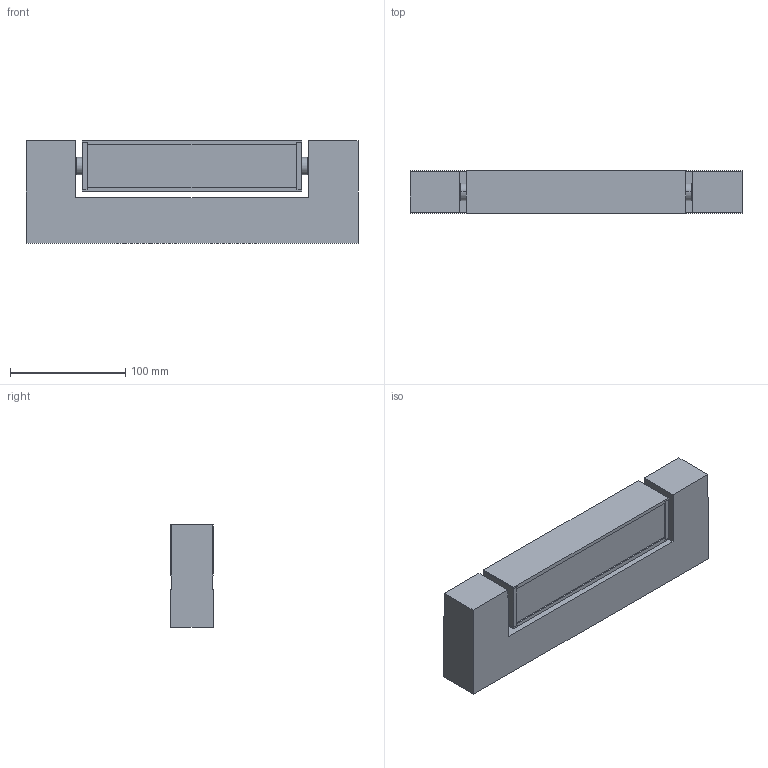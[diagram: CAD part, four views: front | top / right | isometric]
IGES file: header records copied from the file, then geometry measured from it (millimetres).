
Start section: SolidWorks IGES file using analytic representation for surfaces
Global section: file name: C:\Users\tungari.NEMOLIGHTING\Desktop\3D\WALL\BO\3D_ARA_WALL_29\def\3D_ARA_WALL_29.IGS; native system: SolidWorks 2016; preprocessor: SolidWorks 2016; author: tungari; date: 180312.110932; units: millimetre
Bounding box: 288 x 37.15 x 89 mm (x, y, z)
Surface area: 134579.3 mm2 (no closed solid volume)
Topology: 0 solids, 0 shells, 123 faces, 990 edges, 990 vertices
Faces by surface type: bspline 101, revolution 22
